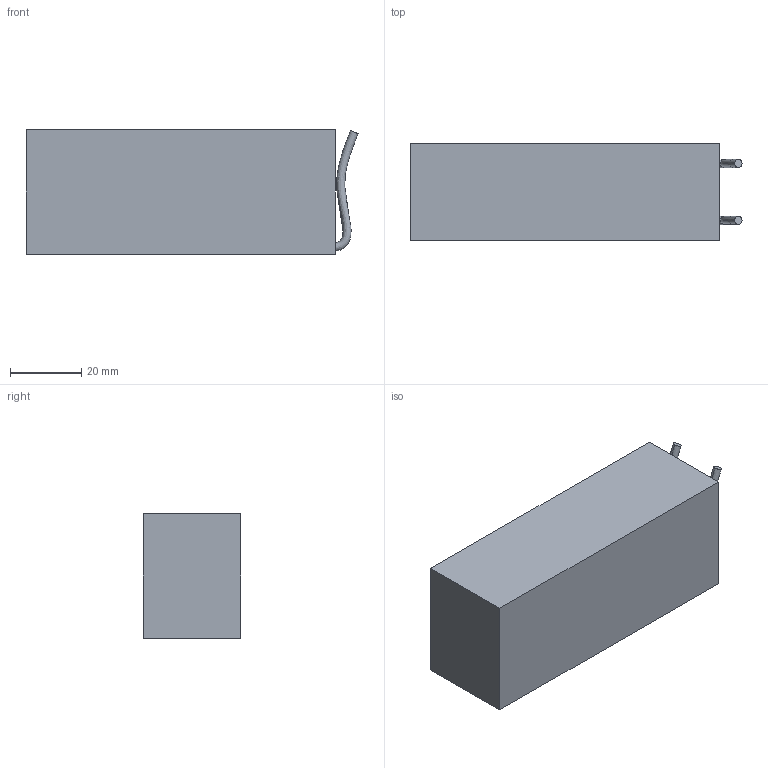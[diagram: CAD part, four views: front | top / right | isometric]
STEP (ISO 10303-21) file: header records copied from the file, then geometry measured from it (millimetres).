
FILE_DESCRIPTION(/* description */ ('STEP AP242','CAx-IF Rec.Pracs.---Representation and Presentation of Product Manufacturing Information (PMI)---4.0---2014-10-13','CAx-IF Rec.Pracs.---3D Tessellated Geometry---0.4---2014-09-14','2;1'),/* implementation_level */ '2;1');
FILE_NAME(/* name */ 'TurtleBot3 Burger - LB-012',/* time_stamp */ '2025-02-06T06:24:11Z',/* author */ (''),/* organization */ (''),/* preprocessor_version */ 'ST-DEVELOPER v20',/* originating_system */ 'ONSHAPE BY PTC INC, 1.193',/* authorisation */ ' ');
FILE_SCHEMA (('AP242_MANAGED_MODEL_BASED_3D_ENGINEERING_MIM_LF { 1 0 10303 442 1 1 4 }'));
Length unit declared in the file: metre
Products named in the file (1): LB-012
Bounding box: 93.39 x 27.5 x 35 mm (x, y, z)
Volume: 84026.2 mm3; surface area: 13310.1 mm2
Topology: 1 solids, 1 shells, 14 faces, 30 edges, 20 vertices
Faces by surface type: plane 10, bspline 4
Entity records: 1279 total; most frequent: CARTESIAN_POINT 875, ORIENTED_EDGE 60, DIRECTION 52, EDGE_CURVE 30, VERTEX_POINT 20, AXIS2_PLACEMENT_3D 19, EDGE_LOOP 16, FACE_BOUND 16
